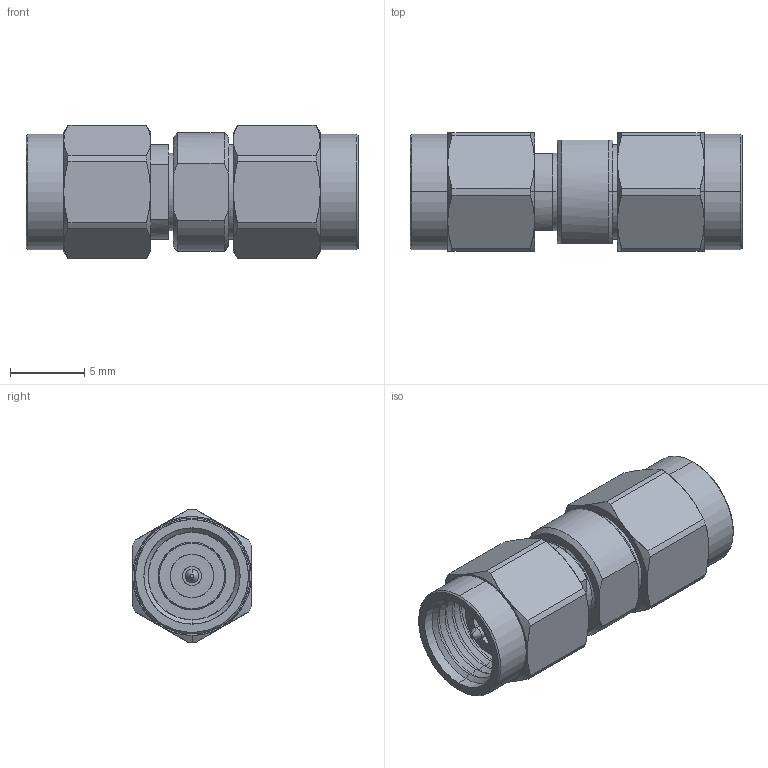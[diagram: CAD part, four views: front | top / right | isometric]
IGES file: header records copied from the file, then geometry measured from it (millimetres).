
Start section: SolidWorks IGES file using analytic representation for surfaces
Global section: file name: C:\Users\sculpepper\Desktop\7927000K001-800igs.IGS; native system: SolidWorks 2019; preprocessor: SolidWorks 2019; author: sculpepper; date: 201020.131242; units: inch
Bounding box: 22.37 x 8 x 9 mm (x, y, z)
Surface area: 1198.4 mm2 (no closed solid volume)
Topology: 0 solids, 0 shells, 193 faces, 2024 edges, 2024 vertices
Faces by surface type: revolution 151, bspline 42
